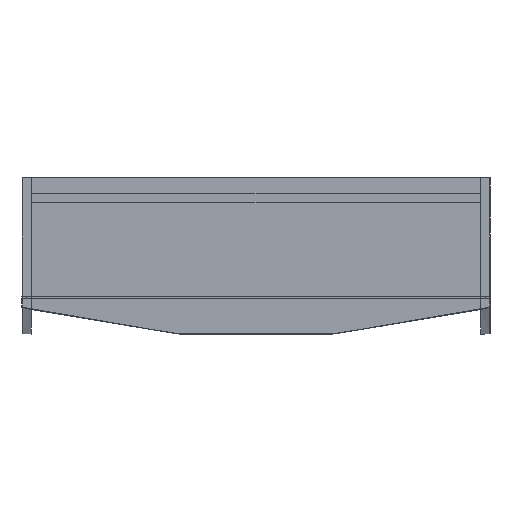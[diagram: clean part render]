
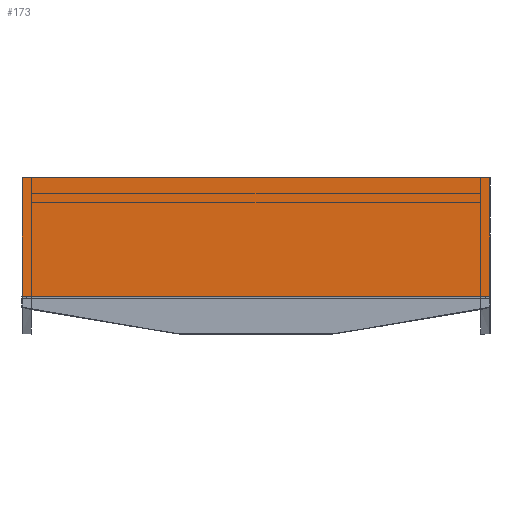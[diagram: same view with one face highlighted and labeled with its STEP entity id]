
A CAD part, left-side view. The second image highlights one B-rep face of the part: STEP entity #173.
In plain terms, the highlighted planar face has unit normal (-1, 0, 0).
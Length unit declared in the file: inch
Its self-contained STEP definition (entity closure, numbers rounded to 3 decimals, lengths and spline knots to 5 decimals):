
#173=ADVANCED_FACE('',(#455),#4432,.T.);
#455=FACE_OUTER_BOUND('',#749,.T.);
#749=EDGE_LOOP('',(#1419,#1420,#1421,#1422));
#1419=ORIENTED_EDGE('',*,*,#2630,.F.);
#1420=ORIENTED_EDGE('',*,*,#2611,.F.);
#1421=ORIENTED_EDGE('',*,*,#2629,.T.);
#1422=ORIENTED_EDGE('',*,*,#2624,.F.);
#2611=EDGE_CURVE('',#4014,#4017,#3366,.T.);
#2624=EDGE_CURVE('',#4024,#4023,#3378,.T.);
#2629=EDGE_CURVE('',#4014,#4023,#3383,.T.);
#2630=EDGE_CURVE('',#4017,#4024,#3384,.T.);
#3366=B_SPLINE_CURVE_WITH_KNOTS('',1,(#6098,#6099),.UNSPECIFIED.,.F.,.F.,
(2,2),(101.00747,124.50747),.UNSPECIFIED.);
#3378=B_SPLINE_CURVE_WITH_KNOTS('',1,(#6127,#6128),.UNSPECIFIED.,.F.,.F.,
(2,2),(-23.5,0.),.UNSPECIFIED.);
#3383=B_SPLINE_CURVE_WITH_KNOTS('',1,(#6137,#6138),.UNSPECIFIED.,.F.,.F.,
(2,2),(0.,5.9375),.UNSPECIFIED.);
#3384=B_SPLINE_CURVE_WITH_KNOTS('',1,(#6139,#6140),.UNSPECIFIED.,.F.,.F.,
(2,2),(0.,5.9375),.UNSPECIFIED.);
#4014=VERTEX_POINT('',#6074);
#4017=VERTEX_POINT('',#6077);
#4023=VERTEX_POINT('',#6083);
#4024=VERTEX_POINT('',#6084);
#4432=PLANE('',#4824);
#4824=AXIS2_PLACEMENT_3D('',#6069,#5146,$);
#5146=DIRECTION('',(-1.,0.,0.));
#6069=CARTESIAN_POINT('',(4601.35834,-238.85912,247.02664));
#6074=CARTESIAN_POINT('',(4601.35834,-215.35912,252.96414));
#6077=CARTESIAN_POINT('',(4601.35834,-238.85912,252.96414));
#6083=CARTESIAN_POINT('',(4601.35834,-215.35912,247.02664));
#6084=CARTESIAN_POINT('',(4601.35834,-238.85912,247.02664));
#6098=CARTESIAN_POINT('',(4601.35834,-215.35912,252.96414));
#6099=CARTESIAN_POINT('',(4601.35834,-238.85912,252.96414));
#6127=CARTESIAN_POINT('',(4601.35834,-238.85912,247.02664));
#6128=CARTESIAN_POINT('',(4601.35834,-215.35912,247.02664));
#6137=CARTESIAN_POINT('',(4601.35834,-215.35912,252.96414));
#6138=CARTESIAN_POINT('',(4601.35834,-215.35912,247.02664));
#6139=CARTESIAN_POINT('',(4601.35834,-238.85912,252.96414));
#6140=CARTESIAN_POINT('',(4601.35834,-238.85912,247.02664));
